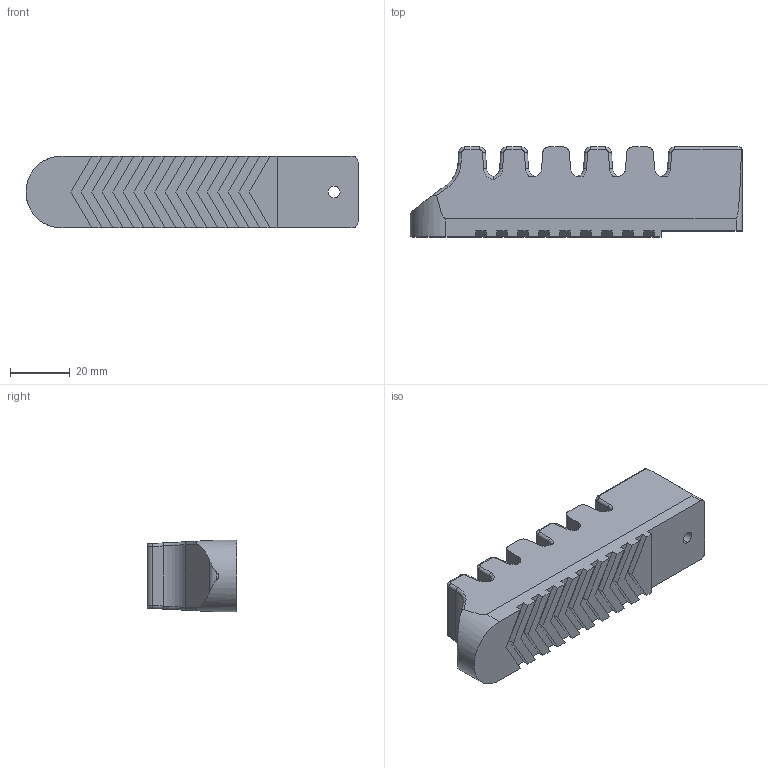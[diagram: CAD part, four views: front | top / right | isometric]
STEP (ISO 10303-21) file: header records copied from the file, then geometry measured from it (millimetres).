
FILE_DESCRIPTION (( 'STEP AP214' ), '1' );
FILE_NAME ('A6.STEP', '2019-12-04T07:35:40', ( '微软用户' ), ( '微软中国' ), 'SwSTEP 2.0', 'SolidWorks 2016', '' );
FILE_SCHEMA (( 'AUTOMOTIVE_DESIGN' ));
Length unit declared in the file: millimetre
Products named in the file (1): A6
Bounding box: 110.7 x 30 x 24 mm (x, y, z)
Volume: 62030.3 mm3; surface area: 14346.5 mm2
Topology: 1 solids, 1 shells, 155 faces, 419 edges, 266 vertices
Faces by surface type: plane 81, cylinder 50, bspline 24
Entity records: 8071 total; most frequent: CARTESIAN_POINT 2752, ORIENTED_EDGE 838, DIRECTION 631, EDGE_CURVE 419, LINE 281, VECTOR 281, VERTEX_POINT 266, AXIS2_PLACEMENT_3D 175
